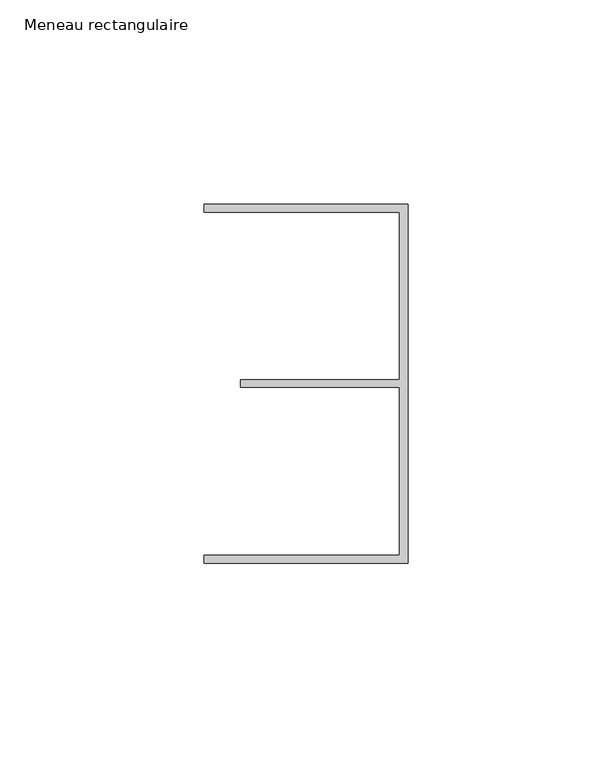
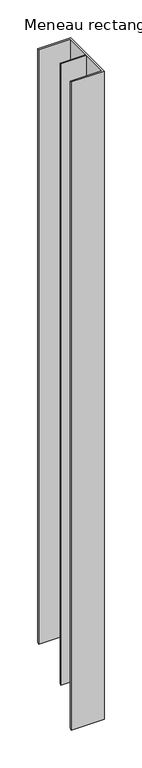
"""IFC4 building model written with IfcOpenShell, lengths in millimetres: member geometry, Meneau rectangulaire : LISSERIE_SOL_COIFFANTE 94-KLS00-P80-SD41ALU."""

from ifc_helpers import new_model, si_unit, origin, place, context, project, spatial, faceted_brep, source, transform, mapped, element, save


def meneau_rectangulaire_e24a105a(model_context):
    return source(origin(), model_context, "Body", "Brep", [
        faceted_brep([(0.0, -44.0, 0.0), (0.0, 44.0, 0.0), (-50.0, 44.0, 0.0), (-50.0, 42.0, 0.0), (-2.0, 42.0, 0.0), (-2.0, 0.9316478, 0.0), (-41.0, 0.9316478, 0.0), (-41.0, -0.9316478, 0.0), (-2.0, -0.9316478, 0.0), (-2.0, -42.0, 0.0), (-50.0, -42.0, 0.0), (-50.0, -44.0, 0.0), (0.0, -44.0, -1044.4), (0.0, 44.0, -956.4), (-50.0, 44.0, -956.4), (-50.0, 42.0, -958.4), (-2.0, 42.0, -958.4), (-2.0, 0.9316478, -999.4683522), (-41.0, 0.9316478, -999.4683522), (-41.0, -0.9316478, -1001.3316478), (-2.0, -0.9316478, -1001.3316478), (-2.0, -42.0, -1042.4), (-50.0, -42.0, -1042.4), (-50.0, -44.0, -1044.4)], [[[0, 1, 2, 3, 4, 5, 6, 7, 8, 9, 10, 11]], [[1, 0, 12, 13]], [[2, 1, 13, 14]], [[3, 2, 14, 15]], [[4, 3, 15, 16]], [[5, 4, 16, 17]], [[6, 5, 17, 18]], [[7, 6, 18, 19]], [[8, 7, 19, 20]], [[9, 8, 20, 21]], [[10, 9, 21, 22]], [[11, 10, 22, 23]], [[0, 11, 23, 12]], [[12, 23, 22, 21, 20, 19, 18, 17, 16, 15, 14, 13]]]),
    ])


if __name__ == "__main__":
    model = new_model("IFC4")
    model_context = context("Model", 3, world=origin())
    ifc_project = project(units=[si_unit("LENGTHUNIT", "METRE", prefix="MILLI")], contexts=[model_context])
    site = spatial("IfcSite", under=ifc_project)
    building = spatial("IfcBuilding", under=site)
    placement = place(None, origin())
    meneau_rectangulaire_shape = meneau_rectangulaire_e24a105a(model_context)
    element("IfcMember", 1, ObjectType="Meneau rectangulaire : LISSERIE_SOL_COIFFANTE 94-KLS00-P80-SD41ALU", at=placement, inside=building, context=model_context, shape_type="MappedRepresentation", body=[
        mapped(meneau_rectangulaire_shape, transform((0.0, 0.0, 0.0), x_axis=(1.0, 0.0, 0.0), y_axis=(0.0, 1.0, 0.0), z_axis=(0.0, 0.0, 1.0))),
    ])
    save(model, "model.ifc")
